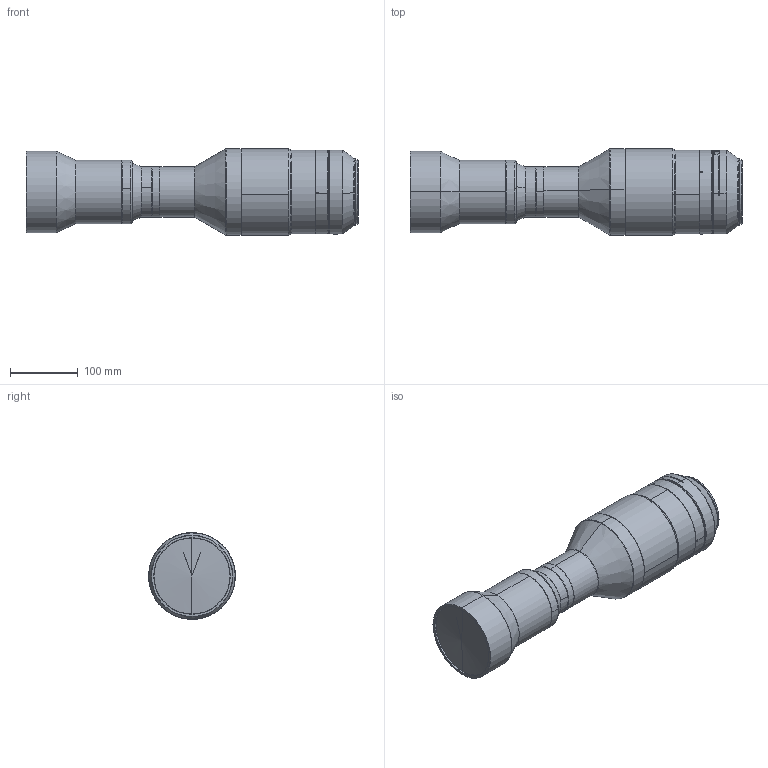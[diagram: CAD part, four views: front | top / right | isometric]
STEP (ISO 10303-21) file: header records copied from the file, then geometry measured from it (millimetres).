
FILE_DESCRIPTION (( 'STEP AP203' ), '1' );
FILE_NAME ('DTCA24K-75-M90-AL.STEP', '2019-02-27T06:30:50', ( '' ), ( '' ), 'SwSTEP 2.0', 'SolidWorks 2017', '' );
FILE_SCHEMA (( 'CONFIG_CONTROL_DESIGN' ));
Length unit declared in the file: millimetre
Products named in the file (1): DTCA24K-75-M90-AL
Bounding box: 490.03 x 127.82 x 127.82 mm (x, y, z)
Volume: 4463825.2 mm3; surface area: 193524.8 mm2
Topology: 1 solids, 2 shells, 155 faces, 368 edges, 224 vertices
Faces by surface type: cylinder 57, cone 55, bspline 22, plane 21
Entity records: 5058 total; most frequent: CARTESIAN_POINT 1482, DIRECTION 767, ORIENTED_EDGE 728, EDGE_CURVE 364, AXIS2_PLACEMENT_3D 321, VERTEX_POINT 224, CIRCLE 187, EDGE_LOOP 168
